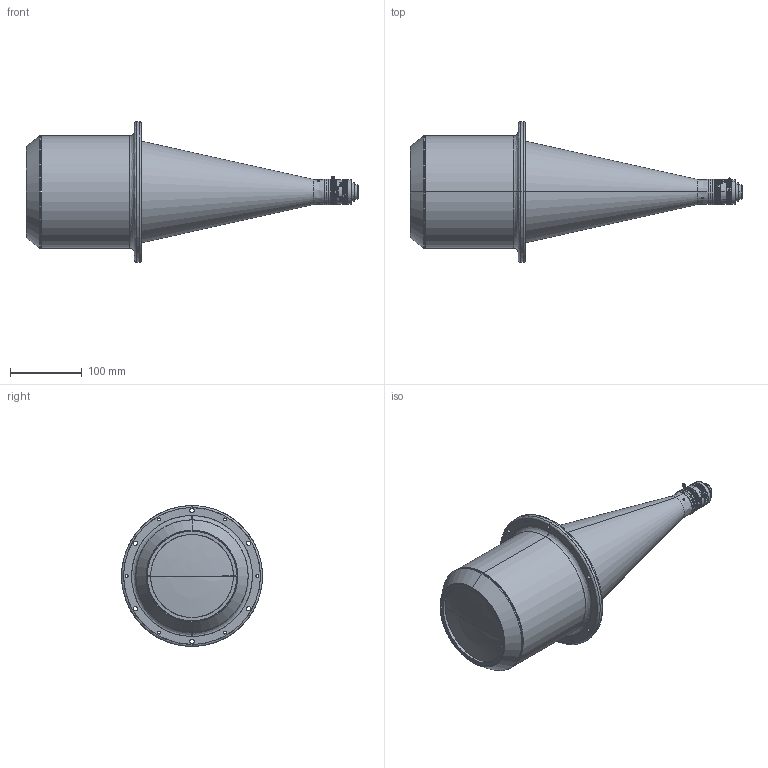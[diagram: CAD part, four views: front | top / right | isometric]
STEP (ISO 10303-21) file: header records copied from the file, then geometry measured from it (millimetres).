
FILE_DESCRIPTION(('LS-TCL-0068'),'2;1');
FILE_NAME('LS-TCL-0068.stp','2026-10-15T21:53:54',('LumaSpec Vision'),('LumaSpec Vision'),'LumaSpec Vision','LumaSpec Vision','');
FILE_SCHEMA(('AUTOMOTIVE_DESIGN { 1 0 10303 214 1 1 1 1 }'));
Length unit declared in the file: millimetre
Products named in the file (904): LumaSpec Vision
Assembly tree (903 placements, depth 2):
  LumaSpec Vision
    LumaSpec Vision
    LumaSpec Vision
    LumaSpec Vision
    LumaSpec Vision
    LumaSpec Vision
    LumaSpec Vision
    LumaSpec Vision
    LumaSpec Vision
    LumaSpec Vision
    LumaSpec Vision
    LumaSpec Vision
    LumaSpec Vision
    LumaSpec Vision
    LumaSpec Vision
    LumaSpec Vision
    LumaSpec Vision
    LumaSpec Vision
    LumaSpec Vision
    LumaSpec Vision
    LumaSpec Vision
    LumaSpec Vision
    LumaSpec Vision
    LumaSpec Vision
    LumaSpec Vision
    LumaSpec Vision
    LumaSpec Vision
    LumaSpec Vision
    LumaSpec Vision
    LumaSpec Vision
    LumaSpec Vision
    LumaSpec Vision
    LumaSpec Vision
    LumaSpec Vision
    LumaSpec Vision
    LumaSpec Vision
    LumaSpec Vision
    LumaSpec Vision
    LumaSpec Vision
    LumaSpec Vision
    LumaSpec Vision
    LumaSpec Vision
    LumaSpec Vision
    LumaSpec Vision
    LumaSpec Vision
    LumaSpec Vision
    LumaSpec Vision
    LumaSpec Vision
    LumaSpec Vision
    LumaSpec Vision
    LumaSpec Vision
    LumaSpec Vision
    LumaSpec Vision
    LumaSpec Vision
    LumaSpec Vision
    LumaSpec Vision
    LumaSpec Vision
    LumaSpec Vision
    LumaSpec Vision
    LumaSpec Vision
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Bounding box: 464.13 x 197 x 197 mm (x, y, z)
Surface area: 211883.5 mm2 (no closed solid volume)
Topology: 0 solids, 903 shells, 903 faces, 11201 edges, 11199 vertices
Faces by surface type: bspline 481, revolution 422
Entity records: 196878 total; most frequent: CARTESIAN_POINT 73722, B_SPLINE_CURVE_WITH_KNOTS 17878, ORIENTED_EDGE 11199, EDGE_CURVE 11199, VERTEX_POINT 11199, SURFACE_CURVE 11199, PCURVE 11199, DEFINITIONAL_REPRESENTATION 11199
